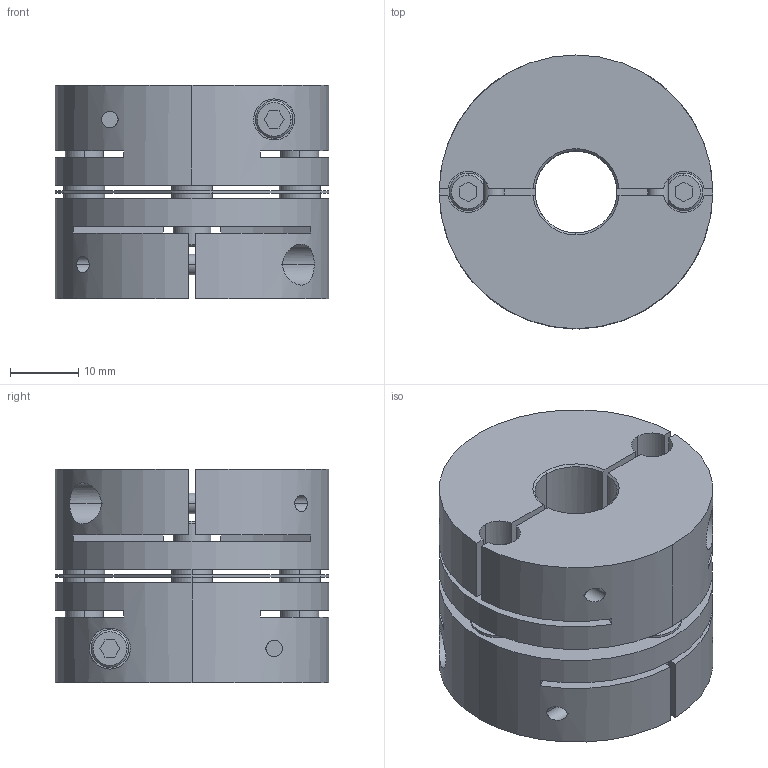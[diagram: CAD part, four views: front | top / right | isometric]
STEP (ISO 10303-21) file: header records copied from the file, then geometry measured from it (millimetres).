
FILE_DESCRIPTION((''),'2;1');
FILE_NAME('LAS-40C-12×12.stp','2011-08-11T08:50:29',(''),(''),'AutoCAD STEP 2000i','AutoCAD 2000i',', , ');
FILE_SCHEMA(('CONFIG_CONTROL_DESIGN'));
Length unit declared in the file: millimetre
Products named in the file (5): LAS-40C-10×10; 忣兜1; LA-4002-D10-1; LA-4002-D10; LAS40-ITA
Assembly tree (4 placements, depth 2):
  LAS-40C-10×10
    忣兜1
    LA-4002-D10-1
    LA-4002-D10
    LAS40-ITA
Bounding box: 40 x 40 x 31.2 mm (x, y, z)
Volume: 30693.3 mm3; surface area: 15448.3 mm2
Topology: 1 solids, 1 shells, 236 faces, 624 edges, 408 vertices
Faces by surface type: plane 112, cylinder 96, cone 28
Entity records: 8107 total; most frequent: CARTESIAN_POINT 1913, DIRECTION 1302, ORIENTED_EDGE 1248, EDGE_CURVE 624, AXIS2_PLACEMENT_3D 477, VERTEX_POINT 408, VECTOR 348, LINE 348
